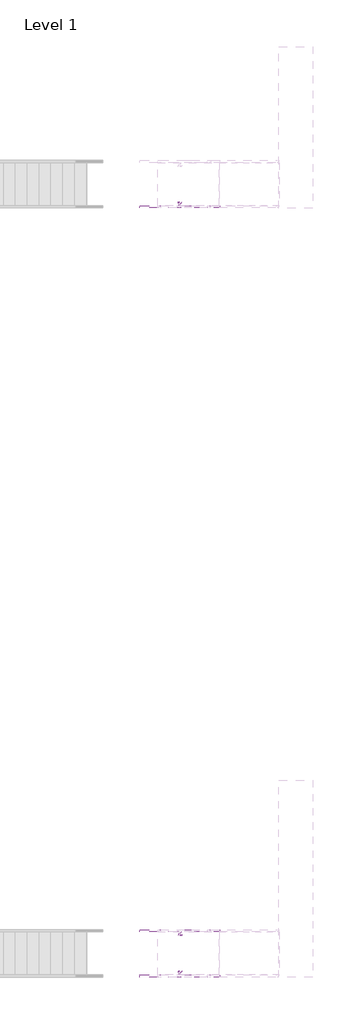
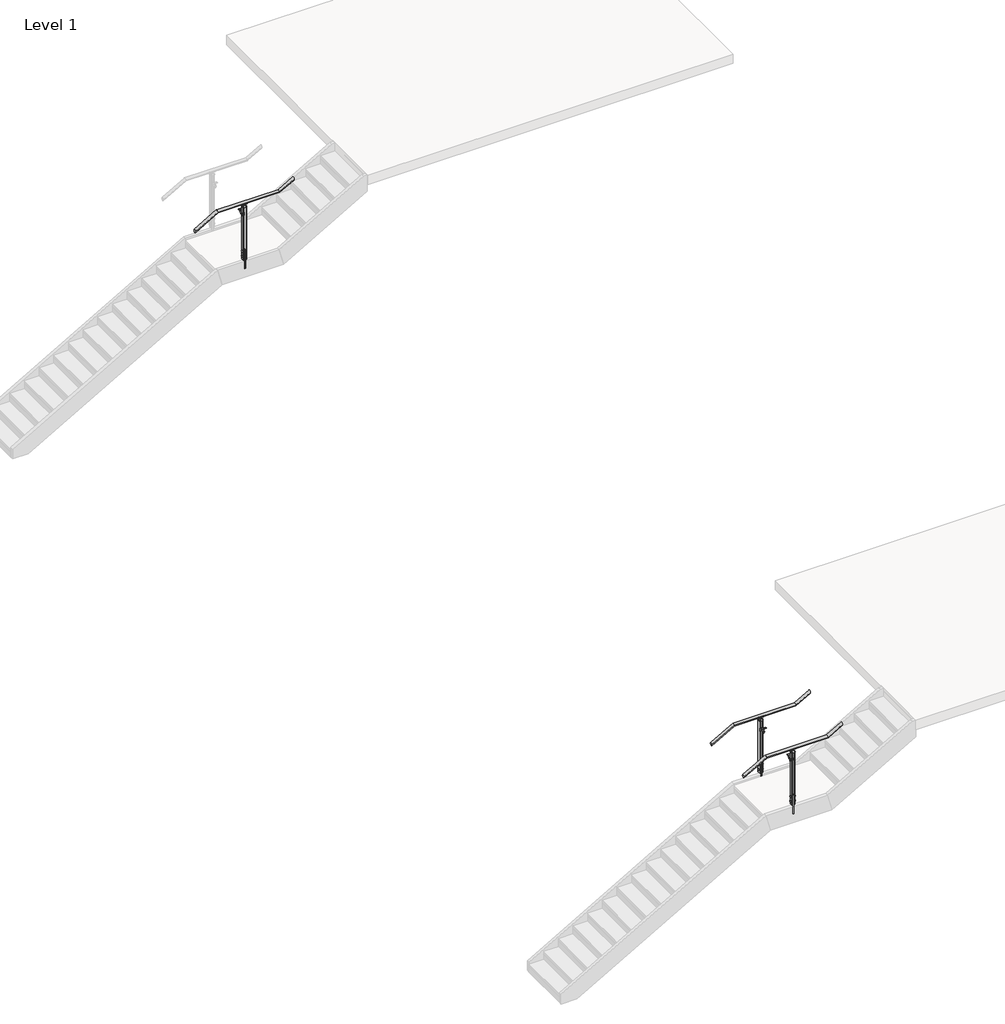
# One storey, part 24 of 36: 3 railings.
"""IFC4 building model written with IfcOpenShell, lengths in millimetres."""

from ifc_helpers import new_model, si_unit, point, frame, frame_2d, origin, place, context, project, spatial, polyline, circle_curve, ellipse_curve, trimmed, segment, composite_curve, outline, extrude, element, save
from ifc_brep_helpers import plane_surface, cylinder_surface, revolved_surface, advanced_brep

model = new_model("IFC4")

# Units and contexts
model_context = context("Model", 3, world=origin())
ifc_project = project(units=[si_unit("LENGTHUNIT", "METRE", prefix="MILLI")], contexts=[model_context])

# Site, building, storey
site = spatial("IfcSite", under=ifc_project)
building = spatial("IfcBuilding", under=site)
storey = spatial("IfcBuildingStorey", under=building, Name="Level 1", Elevation=0.0)

# Railings
placement = place(None, origin())
element("IfcRailing", 1, ObjectType="VIVA-BLADE-Perforated-Weld Mount-Stair-Landing", at=placement, inside=storey, context=model_context, shape_type="SolidModel", body=[
    advanced_brep(
    [(112025.2736551, -2442.7711813, 3047.7740933), (112025.2736551, -2391.9711813, 3047.7740933), (112413.0189918, -2442.7711813, 3269.3428571), (112413.0189918, -2391.9711813, 3269.3428571), (113479.8189918, -2442.7711813, 3269.3428571), (113479.8189918, -2391.9711813, 3269.3428571), (113730.2486551, -2442.7711813, 3412.4455219), (113730.2486551, -2391.9711813, 3412.4455219)],
    [
        (0, 1, ellipse_curve(frame((112025.2736551, -2417.3711813, 3047.7740933), z_axis=(-1.0, 0.0, 0.0), x_axis=(0.0, 0.0, -0.9999999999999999)), 29.2544781, 25.4)),
        (1, 0, ellipse_curve(frame((112025.2736551, -2417.3711813, 3047.7740933), z_axis=(-1.0, 0.0, 0.0), x_axis=(0.0, 0.0, -0.9999999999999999)), 29.2544781, 25.4)),
        (0, 2),
        (2, 3, ellipse_curve(frame((112413.0189918, -2417.3711813, 3269.3428571), z_axis=(-0.9664996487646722, 0.0, -0.2566679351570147), x_axis=(0.25666793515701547, 0.0, -0.9664996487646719)), 26.2804027, 25.4)),
        (3, 1),
        (3, 2, ellipse_curve(frame((112413.0189918, -2417.3711813, 3269.3428571), z_axis=(-0.9664996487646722, 0.0, -0.2566679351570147), x_axis=(0.25666793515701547, 0.0, -0.9664996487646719)), 26.2804027, 25.4)),
        (2, 4),
        (4, 5, ellipse_curve(frame((113479.8189918, -2417.3711813, 3269.3428571), z_axis=(-0.9664996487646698, 0.0, -0.2566679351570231), x_axis=(-0.2566679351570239, 0.0, 0.9664996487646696)), 26.2804027, 25.4)),
        (5, 3),
        (5, 4, ellipse_curve(frame((113479.8189918, -2417.3711813, 3269.3428571), z_axis=(-0.9664996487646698, 0.0, -0.2566679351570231), x_axis=(-0.2566679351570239, 0.0, 0.9664996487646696)), 26.2804027, 25.4)),
        (6, 7, ellipse_curve(frame((113730.2486551, -2417.3711813, 3412.4455219), z_axis=(1.0, 0.0, 0.0), x_axis=(0.0, 0.0, -1.0)), 29.2544781, 25.4)),
        (7, 6, ellipse_curve(frame((113730.2486551, -2417.3711813, 3412.4455219), z_axis=(1.0, 0.0, 0.0), x_axis=(0.0, 0.0, -1.0)), 29.2544781, 25.4)),
        (4, 6),
        (7, 5),
    ],
    [
        plane_surface(frame((112025.2736551, -2417.3711813, 3077.0285714), z_axis=(-1.0, 0.0, 0.0), x_axis=(0.0, 1.0, 0.0))),
        cylinder_surface(frame((112037.8755841, -2417.3711813, 3054.9751956), z_axis=(-0.868243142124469, 0.0, -0.49613893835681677), x_axis=(0.0, 1.0, 0.0)), 25.4),
        cylinder_surface(frame((112406.2736551, -2417.3711813, 3269.3428571), z_axis=(-1.0, 0.0, 0.0), x_axis=(0.0, 1.0, 0.0)), 25.4),
        plane_surface(frame((113730.2486551, -2417.3711813, 3441.7), z_axis=(1.0, 0.0, 0.0), x_axis=(0.0, 1.0, 0.0))),
        cylinder_surface(frame((113485.6755841, -2417.3711813, 3272.6894813), z_axis=(-0.8682431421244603, 0.0, -0.4961389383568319), x_axis=(0.0, 1.0, 0.0)), 25.4),
    ],
    [
        (0, [[1, 2]]),
        (1, [[-1, 3, 4, 5]]),
        (1, [[-2, -5, 6, -3]]),
        (2, [[-4, 7, 8, 9]]),
        (2, [[-6, -9, 10, -7]]),
        (3, [[11, 12]]),
        (4, [[-8, 13, -12, 14]]),
        (4, [[-10, -14, -11, -13]]),
    ],
),
    extrude(outline(composite_curve([segment(trimmed(circle_curve(frame_2d((0.0, 7.0)), 7.0), [point((0.0, 14.0))], [point((0.0, 0.0))], False, "CARTESIAN"), True, "CONTINUOUS"), segment(trimmed(circle_curve(frame_2d((0.0, 7.0)), 7.0), [point((0.0, 0.0))], [point((0.0, 14.0))], False, "CARTESIAN"), True, "CONTINUOUS")], self_intersect=False)), frame((112877.6769052, -2331.6875589, 3013.7229503), z_axis=(0.0012555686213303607, 0.0, 0.999999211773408), x_axis=(0.999999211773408, 0.0, -0.0012555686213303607)), (0.0, 0.0, 1.0), 75.97),
    extrude(outline(composite_curve([segment(trimmed(circle_curve(frame_2d((-2323.4396268, 3111.669086)), 19.05), [point((-2336.9692151, 3098.2581672))], [point((-2309.9100386, 3098.2581672))], True, "CARTESIAN"), True, "CONTINUOUS"), segment(polyline([(-2309.9100386, 3098.2581672), (-2308.883649, 3097.2407802)]), True, "CONTINUOUS"), segment(trimmed(circle_curve(frame_2d((-2309.9396268, 3096.1754583)), 1.5), [point((-2308.883649, 3097.2407802))], [point((-2308.9542254, 3095.0445366))], False, "CARTESIAN"), True, "CONTINUOUS"), segment(trimmed(circle_curve(frame_2d((-2323.4396268, 3111.669086)), 22.05), [point((-2308.9542254, 3095.0445366))], [point((-2337.9250283, 3095.0445366))], False, "CARTESIAN"), True, "CONTINUOUS"), segment(trimmed(circle_curve(frame_2d((-2336.9396268, 3096.1754583)), 1.5), [point((-2337.9250283, 3095.0445366))], [point((-2337.9956047, 3097.2407802))], False, "CARTESIAN"), True, "CONTINUOUS"), segment(polyline([(-2337.9956047, 3097.2407802), (-2336.9692151, 3098.2581672)]), True, "CONTINUOUS")], self_intersect=False)), frame((112841.3255204, 0.0, 0.0), z_axis=(1.0, 0.0, 0.0), x_axis=(0.0, 1.0, 0.0)), (0.0, 0.0, 1.0), 74.5229187),
    extrude(outline(composite_curve([segment(trimmed(circle_curve(frame_2d((3040.5995463, 112877.7368087)), 12.5), [point((3040.5995463, 112865.2368087))], [point((3040.5995463, 112890.2368087))], False, "CARTESIAN"), True, "CONTINUOUS"), segment(trimmed(circle_curve(frame_2d((3040.5995463, 112877.7368087)), 12.5), [point((3040.5995463, 112890.2368087))], [point((3040.5995463, 112865.2368087))], False, "CARTESIAN"), True, "CONTINUOUS")], self_intersect=False)), frame((0.0, -2391.9713846, 0.0), z_axis=(0.0, 1.0, 0.0), x_axis=(0.0, 0.0, 1.0)), (0.0, 0.0, 1.0), 82.061346),
    extrude(outline(polyline([(112904.8359907, -2385.6213846), (112904.8359907, -2391.9713846), (112850.7085907, -2391.9713846), (112850.7085907, -2385.6213846), (112904.8359907, -2385.6213846)])), frame((0.0, 0.0, 3013.6558249), z_axis=(0.0, 0.0, 1.0), x_axis=(1.0, 0.0, 0.0)), (0.0, 0.0, 1.0), 54.1734375),
    advanced_brep(
    [(112922.9985551, -2404.6110577, 3247.3396226), (112922.9985551, -2429.4831222, 3247.1963856), (112922.9985551, -2432.2920525, 3242.3696317), (112922.9985551, -2400.7751603, 3242.9503901), (112832.5237551, -2404.6110577, 3247.3396226), (112832.5237551, -2400.7751603, 3242.9503901), (112832.5237551, -2432.4058459, 3242.4322535), (112832.5237551, -2429.5700943, 3247.2447018)],
    [
        (0, 1, circle_curve(frame((112922.9985551, -2417.1748606, 3269.4544469), z_axis=(-1.0, 0.0, 0.0), x_axis=(0.0, 1.0, 0.0)), 25.4345159)),
        (1, 2, circle_curve(frame((112922.9985551, -2430.8147475, 3244.742217), z_axis=(1.0, 0.0, 0.0), x_axis=(0.0, 1.0, 0.0)), 2.7949225)),
        (2, 3, circle_curve(frame((112922.9985551, -2417.0413975, 3270.2170736), z_axis=(1.0, 0.0, 0.0), x_axis=(0.0, 1.0, 0.0)), 31.75)),
        (3, 0, circle_curve(frame((112922.9985551, -2403.0635, 3244.8213092), z_axis=(1.0, 0.0, 0.0), x_axis=(0.0, 1.0, 0.0)), 2.9558141)),
        (4, 5, circle_curve(frame((112832.5237551, -2403.0635, 3244.8213092), z_axis=(-1.0, 0.0, 0.0), x_axis=(0.0, 1.0, 0.0)), 2.9558141)),
        (5, 6, circle_curve(frame((112832.5237551, -2417.0413975, 3270.2170736), z_axis=(-1.0, 0.0, 0.0), x_axis=(0.0, 1.0, 0.0)), 31.75)),
        (6, 7, circle_curve(frame((112832.5237551, -2430.8147475, 3244.742217), z_axis=(-1.0, 0.0, 0.0), x_axis=(0.0, 1.0, 0.0)), 2.7949225)),
        (7, 4, circle_curve(frame((112832.5237551, -2417.1748606, 3269.4544469), z_axis=(1.0, 0.0, 0.0), x_axis=(0.0, 1.0, 0.0)), 25.4345159)),
        (0, 4),
        (7, 1),
        (6, 2),
        (5, 3),
    ],
    [
        plane_surface(frame((112922.9985551, -2391.7403447, 3269.4544469), z_axis=(1.0, 0.0, 0.0), x_axis=(0.0, 0.0, -1.0))),
        plane_surface(frame((112832.5237551, -2391.7403447, 3269.4544469), z_axis=(-1.0, 0.0, 0.0), x_axis=(0.0, 0.0, 1.0))),
        revolved_surface(polyline([(112832.5237551, -2391.7403447, 3269.4544469), (112922.9985551, -2391.7403447, 3269.4544469)]), (112832.5237551, -2417.1748606, 3269.4544469), (-1.0, 0.0, 0.0)),
        cylinder_surface(frame((112832.5237551, -2430.8147475, 3244.742217), z_axis=(1.0, 0.0, 0.0), x_axis=(0.0, 1.0, 0.0)), 2.7949225),
        cylinder_surface(frame((112832.5237551, -2417.0413975, 3270.2170736), z_axis=(1.0, 0.0, 0.0), x_axis=(0.0, 1.0, 0.0)), 31.75),
        cylinder_surface(frame((112832.5237551, -2403.0635, 3244.8213092), z_axis=(1.0, 0.0, 0.0), x_axis=(0.0, 1.0, 0.0)), 2.9558141),
    ],
    [
        (0, [[1, 2, 3, 4]]),
        (1, [[5, 6, 7, 8]]),
        (2, [[-1, 9, -8, 10]]),
        (3, [[-2, -10, -7, 11]]),
        (4, [[-3, -11, -6, 12]]),
        (5, [[-4, -12, -5, -9]]),
    ],
),
    advanced_brep(
    [(112890.4611551, -2414.8311813, 3229.6553571), (112865.0611551, -2414.8311813, 3229.6553571), (112850.6932402, -2414.8311813, 3244.023272), (112904.8290699, -2414.8311813, 3244.023272), (112890.4611551, -2419.9111813, 3229.6553571), (112904.8290699, -2419.9111813, 3244.023272), (112850.6932402, -2419.9111813, 3244.023272), (112865.0611551, -2419.9111813, 3229.6553571)],
    [
        (0, 1),
        (1, 2, circle_curve(frame((112850.6932402, -2414.8311813, 3229.6553571), z_axis=(0.0, -1.0, 0.0), x_axis=(-1.0, 0.0, 0.0)), 14.3679149)),
        (2, 3),
        (3, 0, circle_curve(frame((112904.8290699, -2414.8311813, 3229.6553571), z_axis=(0.0, -1.0, 0.0), x_axis=(-1.0, 0.0, 0.0)), 14.3679149)),
        (4, 5, circle_curve(frame((112904.8290699, -2419.9111813, 3229.6553571), z_axis=(0.0, 1.0, 0.0), x_axis=(-1.0, 0.0, 0.0)), 14.3679149)),
        (5, 6),
        (6, 7, circle_curve(frame((112850.6932402, -2419.9111813, 3229.6553571), z_axis=(0.0, 1.0, 0.0), x_axis=(-1.0, 0.0, 0.0)), 14.3679149)),
        (7, 4),
        (0, 4),
        (7, 1),
        (6, 2),
        (5, 3),
    ],
    [
        plane_surface(frame((112865.0611551, -2414.8311813, 3229.6553571), z_axis=(0.0, 1.0, 0.0), x_axis=(-1.0, 0.0, 0.0))),
        plane_surface(frame((112865.0611551, -2419.9111813, 3229.6553571), z_axis=(0.0, -1.0, 0.0), x_axis=(1.0, 0.0, 0.0))),
        plane_surface(frame((112890.4611551, -2414.8311813, 3229.6553571), z_axis=(0.0, 0.0, -1.0), x_axis=(0.0, -1.0, 0.0))),
        revolved_surface(polyline([(112836.3253253, -2419.9111813, 3229.6553571), (112836.3253253, -2414.8311813, 3229.6553571)]), (112850.6932402, -2419.9111813, 3229.6553571), (0.0, -1.0, 0.0)),
        plane_surface(frame((112850.6932402, -2414.8311813, 3244.023272), z_axis=(0.0, 0.0, 1.0), x_axis=(0.0, -1.0, 0.0))),
        revolved_surface(polyline([(112890.46115500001, -2419.9111813, 3229.6553571), (112890.46115500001, -2414.8311813, 3229.6553571)]), (112904.8290699, -2419.9111813, 3229.6553571), (0.0, -1.0, 0.0)),
    ],
    [
        (0, [[1, 2, 3, 4]]),
        (1, [[5, 6, 7, 8]]),
        (2, [[-1, 9, -8, 10]]),
        (3, [[-2, -10, -7, 11]]),
        (4, [[-3, -11, -6, 12]]),
        (5, [[-4, -12, -5, -9]]),
    ],
),
    extrude(outline(polyline([(112850.6863194, -2391.9713846), (112858.7111551, -2391.9713846), (112858.7111551, -2442.7737093), (112850.6863194, -2442.7737093), (112850.6863194, -2391.9713846)])), frame((0.0, 0.0, 2237.6440557), z_axis=(0.0, 0.0, 1.0), x_axis=(1.0, 0.0, 0.0)), (0.0, 0.0, 1.0), 974.5488015),
    extrude(outline(polyline([(112885.6901563, -2391.9717835), (112885.6901563, -2442.7717758), (112869.7541659, -2442.7717758), (112869.7541659, -2391.9717835), (112885.6901563, -2391.9717835)])), frame((0.0, 0.0, 2075.5428571), z_axis=(0.0, 0.0, 1.0), x_axis=(1.0, 0.0, 0.0)), (0.0, 0.0, 1.0), 342.9),
    extrude(outline(composite_curve([segment(trimmed(circle_curve(frame_2d((-2430.0736582, 3201.2845501)), 8.89), [point((-2438.9636582, 3201.2845501))], [point((-2421.1836582, 3201.2845501))], False, "CARTESIAN"), True, "CONTINUOUS"), segment(trimmed(circle_curve(frame_2d((-2430.0736582, 3201.2845501)), 8.89), [point((-2421.1836582, 3201.2845501))], [point((-2438.9636582, 3201.2845501))], False, "CARTESIAN"), True, "CONTINUOUS")], self_intersect=False)), frame((112846.0111551, 0.0, 0.0), z_axis=(1.0, 0.0, 0.0), x_axis=(0.0, 1.0, 0.0)), (0.0, 0.0, 1.0), 63.4880631),
    extrude(outline(composite_curve([segment(trimmed(circle_curve(frame_2d((-2404.6737603, 3201.2845501)), 8.89), [point((-2413.5637603, 3201.2845501))], [point((-2395.7837603, 3201.2845501))], False, "CARTESIAN"), True, "CONTINUOUS"), segment(trimmed(circle_curve(frame_2d((-2404.6737603, 3201.2845501)), 8.89), [point((-2395.7837603, 3201.2845501))], [point((-2413.5637603, 3201.2845501))], False, "CARTESIAN"), True, "CONTINUOUS")], self_intersect=False)), frame((112846.0111551, 0.0, 0.0), z_axis=(1.0, 0.0, 0.0), x_axis=(0.0, 1.0, 0.0)), (0.0, 0.0, 1.0), 63.4880631),
    extrude(outline(polyline([(3189.9551571, 112858.7111551), (3189.9551571, 112896.8111551), (3223.3053571, 112896.8111551), (3229.6553571, 112890.4611551), (3229.6553571, 112865.0611551), (3223.3053571, 112858.7111551), (3189.9551571, 112858.7111551)])), frame((0.0, -2442.7737093, 0.0), z_axis=(0.0, 1.0, 0.0), x_axis=(0.0, 0.0, 1.0)), (0.0, 0.0, 1.0), 50.8025279),
    extrude(outline(composite_curve([segment(trimmed(circle_curve(frame_2d((-2417.3709756, 2385.1476493)), 19.05), [point((-2436.4209756, 2385.1476493))], [point((-2398.3209756, 2385.1476493))], False, "CARTESIAN"), True, "CONTINUOUS"), segment(trimmed(circle_curve(frame_2d((-2417.3709756, 2385.1476493)), 19.05), [point((-2398.3209756, 2385.1476493))], [point((-2436.4209756, 2385.1476493))], False, "CARTESIAN"), True, "CONTINUOUS")], self_intersect=False)), frame((112841.3121551, 0.0, 0.0), z_axis=(1.0, 0.0, 0.0), x_axis=(0.0, 1.0, 0.0)), (0.0, 0.0, 1.0), 72.8981531),
    extrude(outline(composite_curve([segment(trimmed(circle_curve(frame_2d((-2417.3709756, 2296.2476493)), 19.05), [point((-2436.4209756, 2296.2476493))], [point((-2398.3209756, 2296.2476493))], False, "CARTESIAN"), True, "CONTINUOUS"), segment(trimmed(circle_curve(frame_2d((-2417.3709756, 2296.2476493)), 19.05), [point((-2398.3209756, 2296.2476493))], [point((-2436.4209756, 2296.2476493))], False, "CARTESIAN"), True, "CONTINUOUS")], self_intersect=False)), frame((112841.3121551, 0.0, 0.0), z_axis=(1.0, 0.0, 0.0), x_axis=(0.0, 1.0, 0.0)), (0.0, 0.0, 1.0), 72.8981531),
    extrude(outline(polyline([(112896.811117, -2391.9713846), (112904.812117, -2391.9713846), (112904.812117, -2442.7737093), (112896.811117, -2442.7737093), (112896.811117, -2391.9713846)])), frame((0.0, 0.0, 2237.6440557), z_axis=(0.0, 0.0, 1.0), x_axis=(1.0, 0.0, 0.0)), (0.0, 0.0, 1.0), 974.5488015),
])
element("IfcRailing", 2, ObjectType="VIVA-BLADE-Wire Mesh-Weld Mount-Stair-Landing", at=placement, inside=storey, context=model_context, shape_type="SolidModel", body=[
    advanced_brep(
    [(112025.2736551, -18910.6846057, 3047.7740933), (112025.2736551, -18859.8846057, 3047.7740933), (112413.0189918, -18910.6846057, 3269.3428571), (112413.0189918, -18859.8846057, 3269.3428571), (113479.8189918, -18910.6846057, 3269.3428571), (113479.8189918, -18859.8846057, 3269.3428571), (113730.2486551, -18910.6846057, 3412.4455219), (113730.2486551, -18859.8846057, 3412.4455219)],
    [
        (0, 1, ellipse_curve(frame((112025.2736551, -18885.2846057, 3047.7740933), z_axis=(-1.0, 0.0, 0.0), x_axis=(0.0, 0.0, -0.9999999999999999)), 29.2544781, 25.4)),
        (1, 0, ellipse_curve(frame((112025.2736551, -18885.2846057, 3047.7740933), z_axis=(-1.0, 0.0, 0.0), x_axis=(0.0, 0.0, -0.9999999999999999)), 29.2544781, 25.4)),
        (0, 2),
        (2, 3, ellipse_curve(frame((112413.0189918, -18885.2846057, 3269.3428571), z_axis=(-0.9664996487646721, 0.0, -0.2566679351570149), x_axis=(0.25666793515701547, 0.0, -0.9664996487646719)), 26.2804027, 25.4)),
        (3, 1),
        (3, 2, ellipse_curve(frame((112413.0189918, -18885.2846057, 3269.3428571), z_axis=(-0.9664996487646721, 0.0, -0.2566679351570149), x_axis=(0.25666793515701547, 0.0, -0.9664996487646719)), 26.2804027, 25.4)),
        (2, 4),
        (4, 5, ellipse_curve(frame((113479.8189918, -18885.2846057, 3269.3428571), z_axis=(-0.9664996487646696, 0.0, -0.25666793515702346), x_axis=(-0.2566679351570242, 0.0, 0.9664996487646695)), 26.2804027, 25.4)),
        (5, 3),
        (5, 4, ellipse_curve(frame((113479.8189918, -18885.2846057, 3269.3428571), z_axis=(-0.9664996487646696, 0.0, -0.25666793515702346), x_axis=(-0.2566679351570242, 0.0, 0.9664996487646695)), 26.2804027, 25.4)),
        (6, 7, ellipse_curve(frame((113730.2486551, -18885.2846057, 3412.4455219), z_axis=(1.0, 0.0, 0.0), x_axis=(0.0, 0.0, -1.0)), 29.2544781, 25.4)),
        (7, 6, ellipse_curve(frame((113730.2486551, -18885.2846057, 3412.4455219), z_axis=(1.0, 0.0, 0.0), x_axis=(0.0, 0.0, -1.0)), 29.2544781, 25.4)),
        (4, 6),
        (7, 5),
    ],
    [
        plane_surface(frame((112025.2736551, -18885.2846057, 3077.0285714), z_axis=(-1.0, 0.0, 0.0), x_axis=(0.0, 1.0, 0.0))),
        cylinder_surface(frame((112037.8755841, -18885.2846057, 3054.9751956), z_axis=(-0.8682431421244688, 0.0, -0.496138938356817), x_axis=(0.0, 1.0, 0.0)), 25.4),
        cylinder_surface(frame((112406.2736551, -18885.2846057, 3269.3428571), z_axis=(-1.0, 0.0, 0.0), x_axis=(0.0, 1.0, 0.0)), 25.4),
        plane_surface(frame((113730.2486551, -18885.2846057, 3441.7), z_axis=(1.0, 0.0, 0.0), x_axis=(0.0, 1.0, 0.0))),
        cylinder_surface(frame((113485.6755841, -18885.2846057, 3272.6894813), z_axis=(-0.8682431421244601, 0.0, -0.49613893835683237), x_axis=(0.0, 1.0, 0.0)), 25.4),
    ],
    [
        (0, [[1, 2]]),
        (1, [[-1, 3, 4, 5]]),
        (1, [[-2, -5, 6, -3]]),
        (2, [[-4, 7, 8, 9]]),
        (2, [[-6, -9, 10, -7]]),
        (3, [[11, 12]]),
        (4, [[-8, 13, -12, 14]]),
        (4, [[-10, -14, -11, -13]]),
    ],
),
    extrude(outline(composite_curve([segment(trimmed(circle_curve(frame_2d((0.0, 7.0)), 7.0), [point((0.0, 14.0))], [point((0.0, 0.0))], False, "CARTESIAN"), True, "CONTINUOUS"), segment(trimmed(circle_curve(frame_2d((0.0, 7.0)), 7.0), [point((0.0, 0.0))], [point((0.0, 14.0))], False, "CARTESIAN"), True, "CONTINUOUS")], self_intersect=False)), frame((112877.6769052, -18799.6009833, 3013.7229503), z_axis=(0.0012555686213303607, 0.0, 0.999999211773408), x_axis=(0.999999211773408, 0.0, -0.0012555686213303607)), (0.0, 0.0, 1.0), 75.97),
    extrude(outline(composite_curve([segment(trimmed(circle_curve(frame_2d((-18791.3530512, 3111.669086)), 19.05), [point((-18804.8826395, 3098.2581672))], [point((-18777.823463, 3098.2581672))], True, "CARTESIAN"), True, "CONTINUOUS"), segment(polyline([(-18777.823463, 3098.2581672), (-18776.7970734, 3097.2407802)]), True, "CONTINUOUS"), segment(trimmed(circle_curve(frame_2d((-18777.8530512, 3096.1754583)), 1.5), [point((-18776.7970734, 3097.2407802))], [point((-18776.8676498, 3095.0445366))], False, "CARTESIAN"), True, "CONTINUOUS"), segment(trimmed(circle_curve(frame_2d((-18791.3530512, 3111.669086)), 22.05), [point((-18776.8676498, 3095.0445366))], [point((-18805.8384527, 3095.0445366))], False, "CARTESIAN"), True, "CONTINUOUS"), segment(trimmed(circle_curve(frame_2d((-18804.8530512, 3096.1754583)), 1.5), [point((-18805.8384527, 3095.0445366))], [point((-18805.9090291, 3097.2407802))], False, "CARTESIAN"), True, "CONTINUOUS"), segment(polyline([(-18805.9090291, 3097.2407802), (-18804.8826395, 3098.2581672)]), True, "CONTINUOUS")], self_intersect=False)), frame((112841.3255204, 0.0, 0.0), z_axis=(1.0, 0.0, 0.0), x_axis=(0.0, 1.0, 0.0)), (0.0, 0.0, 1.0), 74.5229187),
    extrude(outline(composite_curve([segment(trimmed(circle_curve(frame_2d((3040.5995463, 112877.7368087)), 12.5), [point((3040.5995463, 112865.2368087))], [point((3040.5995463, 112890.2368087))], False, "CARTESIAN"), True, "CONTINUOUS"), segment(trimmed(circle_curve(frame_2d((3040.5995463, 112877.7368087)), 12.5), [point((3040.5995463, 112890.2368087))], [point((3040.5995463, 112865.2368087))], False, "CARTESIAN"), True, "CONTINUOUS")], self_intersect=False)), frame((0.0, -18859.884809, 0.0), z_axis=(0.0, 1.0, 0.0), x_axis=(0.0, 0.0, 1.0)), (0.0, 0.0, 1.0), 82.061346),
    extrude(outline(polyline([(112904.8359907, -18853.534809), (112904.8359907, -18859.884809), (112850.7085907, -18859.884809), (112850.7085907, -18853.534809), (112904.8359907, -18853.534809)])), frame((0.0, 0.0, 3013.6558249), z_axis=(0.0, 0.0, 1.0), x_axis=(1.0, 0.0, 0.0)), (0.0, 0.0, 1.0), 54.1734375),
    advanced_brep(
    [(112922.9985551, -18872.5244821, 3247.3396226), (112922.9985551, -18897.3965466, 3247.1963856), (112922.9985551, -18900.2054769, 3242.3696317), (112922.9985551, -18868.6885847, 3242.9503901), (112832.5237551, -18872.5244821, 3247.3396226), (112832.5237551, -18868.6885847, 3242.9503901), (112832.5237551, -18900.3192703, 3242.4322535), (112832.5237551, -18897.4835187, 3247.2447018)],
    [
        (0, 1, circle_curve(frame((112922.9985551, -18885.088285, 3269.4544469), z_axis=(-1.0, 0.0, 0.0), x_axis=(0.0, 1.0, 0.0)), 25.4345159)),
        (1, 2, circle_curve(frame((112922.9985551, -18898.7281719, 3244.742217), z_axis=(1.0, 0.0, 0.0), x_axis=(0.0, 1.0, 0.0)), 2.7949225)),
        (2, 3, circle_curve(frame((112922.9985551, -18884.9548219, 3270.2170736), z_axis=(1.0, 0.0, 0.0), x_axis=(0.0, 1.0, 0.0)), 31.75)),
        (3, 0, circle_curve(frame((112922.9985551, -18870.9769244, 3244.8213092), z_axis=(1.0, 0.0, 0.0), x_axis=(0.0, 1.0, 0.0)), 2.9558141)),
        (4, 5, circle_curve(frame((112832.5237551, -18870.9769244, 3244.8213092), z_axis=(-1.0, 0.0, 0.0), x_axis=(0.0, 1.0, 0.0)), 2.9558141)),
        (5, 6, circle_curve(frame((112832.5237551, -18884.9548219, 3270.2170736), z_axis=(-1.0, 0.0, 0.0), x_axis=(0.0, 1.0, 0.0)), 31.75)),
        (6, 7, circle_curve(frame((112832.5237551, -18898.7281719, 3244.742217), z_axis=(-1.0, 0.0, 0.0), x_axis=(0.0, 1.0, 0.0)), 2.7949225)),
        (7, 4, circle_curve(frame((112832.5237551, -18885.088285, 3269.4544469), z_axis=(1.0, 0.0, 0.0), x_axis=(0.0, 1.0, 0.0)), 25.4345159)),
        (0, 4),
        (7, 1),
        (6, 2),
        (5, 3),
    ],
    [
        plane_surface(frame((112922.9985551, -18859.6537691, 3269.4544469), z_axis=(1.0, 0.0, 0.0), x_axis=(0.0, 0.0, -1.0))),
        plane_surface(frame((112832.5237551, -18859.6537691, 3269.4544469), z_axis=(-1.0, 0.0, 0.0), x_axis=(0.0, 0.0, 1.0))),
        revolved_surface(polyline([(112832.5237551, -18859.6537691, 3269.4544469), (112922.9985551, -18859.6537691, 3269.4544469)]), (112832.5237551, -18885.088285, 3269.4544469), (-1.0, 0.0, 0.0)),
        cylinder_surface(frame((112832.5237551, -18898.7281719, 3244.742217), z_axis=(1.0, 0.0, 0.0), x_axis=(0.0, 1.0, 0.0)), 2.7949225),
        cylinder_surface(frame((112832.5237551, -18884.9548219, 3270.2170736), z_axis=(1.0, 0.0, 0.0), x_axis=(0.0, 1.0, 0.0)), 31.75),
        cylinder_surface(frame((112832.5237551, -18870.9769244, 3244.8213092), z_axis=(1.0, 0.0, 0.0), x_axis=(0.0, 1.0, 0.0)), 2.9558141),
    ],
    [
        (0, [[1, 2, 3, 4]]),
        (1, [[5, 6, 7, 8]]),
        (2, [[-1, 9, -8, 10]]),
        (3, [[-2, -10, -7, 11]]),
        (4, [[-3, -11, -6, 12]]),
        (5, [[-4, -12, -5, -9]]),
    ],
),
    advanced_brep(
    [(112890.4611551, -18882.7446057, 3229.6553571), (112865.0611551, -18882.7446057, 3229.6553571), (112850.6932402, -18882.7446057, 3244.023272), (112904.8290699, -18882.7446057, 3244.023272), (112890.4611551, -18887.8246057, 3229.6553571), (112904.8290699, -18887.8246057, 3244.023272), (112850.6932402, -18887.8246057, 3244.023272), (112865.0611551, -18887.8246057, 3229.6553571)],
    [
        (0, 1),
        (1, 2, circle_curve(frame((112850.6932402, -18882.7446057, 3229.6553571), z_axis=(0.0, -1.0, 0.0), x_axis=(-1.0, 0.0, 0.0)), 14.3679149)),
        (2, 3),
        (3, 0, circle_curve(frame((112904.8290699, -18882.7446057, 3229.6553571), z_axis=(0.0, -1.0, 0.0), x_axis=(-1.0, 0.0, 0.0)), 14.3679149)),
        (4, 5, circle_curve(frame((112904.8290699, -18887.8246057, 3229.6553571), z_axis=(0.0, 1.0, 0.0), x_axis=(-1.0, 0.0, 0.0)), 14.3679149)),
        (5, 6),
        (6, 7, circle_curve(frame((112850.6932402, -18887.8246057, 3229.6553571), z_axis=(0.0, 1.0, 0.0), x_axis=(-1.0, 0.0, 0.0)), 14.3679149)),
        (7, 4),
        (0, 4),
        (7, 1),
        (6, 2),
        (5, 3),
    ],
    [
        plane_surface(frame((112865.0611551, -18882.7446057, 3229.6553571), z_axis=(0.0, 1.0, 0.0), x_axis=(-1.0, 0.0, 0.0))),
        plane_surface(frame((112865.0611551, -18887.8246057, 3229.6553571), z_axis=(0.0, -1.0, 0.0), x_axis=(1.0, 0.0, 0.0))),
        plane_surface(frame((112890.4611551, -18882.7446057, 3229.6553571), z_axis=(0.0, 0.0, -1.0), x_axis=(0.0, -1.0, 0.0))),
        revolved_surface(polyline([(112836.3253253, -18887.8246057, 3229.6553571), (112836.3253253, -18882.7446057, 3229.6553571)]), (112850.6932402, -18887.8246057, 3229.6553571), (0.0, -1.0, 0.0)),
        plane_surface(frame((112850.6932402, -18882.7446057, 3244.023272), z_axis=(0.0, 0.0, 1.0), x_axis=(0.0, -1.0, 0.0))),
        revolved_surface(polyline([(112890.46115500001, -18887.8246057, 3229.6553571), (112890.46115500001, -18882.7446057, 3229.6553571)]), (112904.8290699, -18887.8246057, 3229.6553571), (0.0, -1.0, 0.0)),
    ],
    [
        (0, [[1, 2, 3, 4]]),
        (1, [[5, 6, 7, 8]]),
        (2, [[-1, 9, -8, 10]]),
        (3, [[-2, -10, -7, 11]]),
        (4, [[-3, -11, -6, 12]]),
        (5, [[-4, -12, -5, -9]]),
    ],
),
    extrude(outline(polyline([(112850.6863194, -18859.884809), (112858.7111551, -18859.884809), (112858.7111551, -18910.6871337), (112850.6863194, -18910.6871337), (112850.6863194, -18859.884809)])), frame((0.0, 0.0, 2237.6440557), z_axis=(0.0, 0.0, 1.0), x_axis=(1.0, 0.0, 0.0)), (0.0, 0.0, 1.0), 974.5488015),
    extrude(outline(polyline([(112885.6901563, -18859.8852079), (112885.6901563, -18910.6852002), (112869.7541659, -18910.6852002), (112869.7541659, -18859.8852079), (112885.6901563, -18859.8852079)])), frame((0.0, 0.0, 2075.5428571), z_axis=(0.0, 0.0, 1.0), x_axis=(1.0, 0.0, 0.0)), (0.0, 0.0, 1.0), 342.9),
    extrude(outline(composite_curve([segment(trimmed(circle_curve(frame_2d((-18897.9870826, 3201.2845501)), 8.89), [point((-18906.8770826, 3201.2845501))], [point((-18889.0970826, 3201.2845501))], False, "CARTESIAN"), True, "CONTINUOUS"), segment(trimmed(circle_curve(frame_2d((-18897.9870826, 3201.2845501)), 8.89), [point((-18889.0970826, 3201.2845501))], [point((-18906.8770826, 3201.2845501))], False, "CARTESIAN"), True, "CONTINUOUS")], self_intersect=False)), frame((112846.0111551, 0.0, 0.0), z_axis=(1.0, 0.0, 0.0), x_axis=(0.0, 1.0, 0.0)), (0.0, 0.0, 1.0), 63.4880631),
    extrude(outline(composite_curve([segment(trimmed(circle_curve(frame_2d((-18872.5871847, 3201.2845501)), 8.89), [point((-18881.4771847, 3201.2845501))], [point((-18863.6971847, 3201.2845501))], False, "CARTESIAN"), True, "CONTINUOUS"), segment(trimmed(circle_curve(frame_2d((-18872.5871847, 3201.2845501)), 8.89), [point((-18863.6971847, 3201.2845501))], [point((-18881.4771847, 3201.2845501))], False, "CARTESIAN"), True, "CONTINUOUS")], self_intersect=False)), frame((112846.0111551, 0.0, 0.0), z_axis=(1.0, 0.0, 0.0), x_axis=(0.0, 1.0, 0.0)), (0.0, 0.0, 1.0), 63.4880631),
    extrude(outline(polyline([(3189.9551571, 112858.7111551), (3189.9551571, 112896.8111551), (3223.3053571, 112896.8111551), (3229.6553571, 112890.4611551), (3229.6553571, 112865.0611551), (3223.3053571, 112858.7111551), (3189.9551571, 112858.7111551)])), frame((0.0, -18910.6871337, 0.0), z_axis=(0.0, 1.0, 0.0), x_axis=(0.0, 0.0, 1.0)), (0.0, 0.0, 1.0), 50.8025279),
    extrude(outline(composite_curve([segment(trimmed(circle_curve(frame_2d((-18885.2844, 2385.1476493)), 19.05), [point((-18904.3344, 2385.1476493))], [point((-18866.2344, 2385.1476493))], False, "CARTESIAN"), True, "CONTINUOUS"), segment(trimmed(circle_curve(frame_2d((-18885.2844, 2385.1476493)), 19.05), [point((-18866.2344, 2385.1476493))], [point((-18904.3344, 2385.1476493))], False, "CARTESIAN"), True, "CONTINUOUS")], self_intersect=False)), frame((112841.3121551, 0.0, 0.0), z_axis=(1.0, 0.0, 0.0), x_axis=(0.0, 1.0, 0.0)), (0.0, 0.0, 1.0), 72.8981531),
    extrude(outline(composite_curve([segment(trimmed(circle_curve(frame_2d((-18885.2844, 2296.2476493)), 19.05), [point((-18904.3344, 2296.2476493))], [point((-18866.2344, 2296.2476493))], False, "CARTESIAN"), True, "CONTINUOUS"), segment(trimmed(circle_curve(frame_2d((-18885.2844, 2296.2476493)), 19.05), [point((-18866.2344, 2296.2476493))], [point((-18904.3344, 2296.2476493))], False, "CARTESIAN"), True, "CONTINUOUS")], self_intersect=False)), frame((112841.3121551, 0.0, 0.0), z_axis=(1.0, 0.0, 0.0), x_axis=(0.0, 1.0, 0.0)), (0.0, 0.0, 1.0), 72.8981531),
    extrude(outline(polyline([(112896.811117, -18859.884809), (112904.812117, -18859.884809), (112904.812117, -18910.6871337), (112896.811117, -18910.6871337), (112896.811117, -18859.884809)])), frame((0.0, 0.0, 2237.6440557), z_axis=(0.0, 0.0, 1.0), x_axis=(1.0, 0.0, 0.0)), (0.0, 0.0, 1.0), 974.5488015),
])
element("IfcRailing", 3, ObjectType="VIVA-BLADE-Wire Mesh-Weld Mount-Stair-Landing", at=placement, inside=storey, context=model_context, shape_type="SolidModel", body=[
    advanced_brep(
    [(112025.2736551, -17945.4846057, 3047.7740933), (112025.2736551, -17894.6846057, 3047.7740933), (112413.0189918, -17945.4846057, 3269.3428571), (112413.0189918, -17894.6846057, 3269.3428571), (113479.8189918, -17945.4846057, 3269.3428571), (113479.8189918, -17894.6846057, 3269.3428571), (113730.2486551, -17945.4846057, 3412.4455219), (113730.2486551, -17894.6846057, 3412.4455219)],
    [
        (0, 1, ellipse_curve(frame((112025.2736551, -17920.0846057, 3047.7740933), z_axis=(-1.0, 0.0, 0.0), x_axis=(0.0, 0.0, -0.9999999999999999)), 29.2544781, 25.4)),
        (1, 0, ellipse_curve(frame((112025.2736551, -17920.0846057, 3047.7740933), z_axis=(-1.0, 0.0, 0.0), x_axis=(0.0, 0.0, -0.9999999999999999)), 29.2544781, 25.4)),
        (0, 2),
        (2, 3, ellipse_curve(frame((112413.0189918, -17920.0846057, 3269.3428571), z_axis=(-0.9664996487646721, 0.0, -0.2566679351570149), x_axis=(0.25666793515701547, 0.0, -0.9664996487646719)), 26.2804027, 25.4)),
        (3, 1),
        (3, 2, ellipse_curve(frame((112413.0189918, -17920.0846057, 3269.3428571), z_axis=(-0.9664996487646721, 0.0, -0.2566679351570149), x_axis=(0.25666793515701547, 0.0, -0.9664996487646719)), 26.2804027, 25.4)),
        (2, 4),
        (4, 5, ellipse_curve(frame((113479.8189918, -17920.0846057, 3269.3428571), z_axis=(-0.9664996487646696, 0.0, -0.25666793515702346), x_axis=(-0.2566679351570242, 0.0, 0.9664996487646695)), 26.2804027, 25.4)),
        (5, 3),
        (5, 4, ellipse_curve(frame((113479.8189918, -17920.0846057, 3269.3428571), z_axis=(-0.9664996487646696, 0.0, -0.25666793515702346), x_axis=(-0.2566679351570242, 0.0, 0.9664996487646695)), 26.2804027, 25.4)),
        (6, 7, ellipse_curve(frame((113730.2486551, -17920.0846057, 3412.4455219), z_axis=(1.0, 0.0, 0.0), x_axis=(0.0, 0.0, -1.0)), 29.2544781, 25.4)),
        (7, 6, ellipse_curve(frame((113730.2486551, -17920.0846057, 3412.4455219), z_axis=(1.0, 0.0, 0.0), x_axis=(0.0, 0.0, -1.0)), 29.2544781, 25.4)),
        (4, 6),
        (7, 5),
    ],
    [
        plane_surface(frame((112025.2736551, -17920.0846057, 3077.0285714), z_axis=(-1.0, 0.0, 0.0), x_axis=(0.0, 1.0, 0.0))),
        cylinder_surface(frame((112037.8755841, -17920.0846057, 3054.9751956), z_axis=(-0.8682431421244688, 0.0, -0.496138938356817), x_axis=(0.0, 1.0, 0.0)), 25.4),
        cylinder_surface(frame((112406.2736551, -17920.0846057, 3269.3428571), z_axis=(-1.0, 0.0, 0.0), x_axis=(0.0, 1.0, 0.0)), 25.4),
        plane_surface(frame((113730.2486551, -17920.0846057, 3441.7), z_axis=(1.0, 0.0, 0.0), x_axis=(0.0, 1.0, 0.0))),
        cylinder_surface(frame((113485.6755841, -17920.0846057, 3272.6894813), z_axis=(-0.8682431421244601, 0.0, -0.49613893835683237), x_axis=(0.0, 1.0, 0.0)), 25.4),
    ],
    [
        (0, [[1, 2]]),
        (1, [[-1, 3, 4, 5]]),
        (1, [[-2, -5, 6, -3]]),
        (2, [[-4, 7, 8, 9]]),
        (2, [[-6, -9, 10, -7]]),
        (3, [[11, 12]]),
        (4, [[-8, 13, -12, 14]]),
        (4, [[-10, -14, -11, -13]]),
    ],
),
    extrude(outline(composite_curve([segment(trimmed(circle_curve(frame_2d((0.0, -7.0)), 7.0), [point((0.0, -14.0))], [point((0.0, 0.0))], False, "CARTESIAN"), True, "CONTINUOUS"), segment(trimmed(circle_curve(frame_2d((0.0, -7.0)), 7.0), [point((0.0, 0.0))], [point((0.0, -14.0))], False, "CARTESIAN"), True, "CONTINUOUS")], self_intersect=False)), frame((112877.6769052, -18005.7682282, 3013.7229503), z_axis=(0.0012555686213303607, 0.0, 0.999999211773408), x_axis=(0.999999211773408, 0.0, -0.0012555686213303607)), (0.0, 0.0, 1.0), 75.97),
    extrude(outline(composite_curve([segment(polyline([(-18000.486572, 3098.2581672), (-17999.4601823, 3097.2407802)]), True, "CONTINUOUS"), segment(trimmed(circle_curve(frame_2d((-18000.5161602, 3096.1754583)), 1.5), [point((-17999.4601823, 3097.2407802))], [point((-17999.5307587, 3095.0445366))], False, "CARTESIAN"), True, "CONTINUOUS"), segment(trimmed(circle_curve(frame_2d((-18014.0161602, 3111.669086)), 22.05), [point((-17999.5307587, 3095.0445366))], [point((-18028.5015617, 3095.0445366))], False, "CARTESIAN"), True, "CONTINUOUS"), segment(trimmed(circle_curve(frame_2d((-18027.5161602, 3096.1754583)), 1.5), [point((-18028.5015617, 3095.0445366))], [point((-18028.572138, 3097.2407802))], False, "CARTESIAN"), True, "CONTINUOUS"), segment(polyline([(-18028.572138, 3097.2407802), (-18027.5457484, 3098.2581672)]), True, "CONTINUOUS"), segment(trimmed(circle_curve(frame_2d((-18014.0161602, 3111.669086)), 19.05), [point((-18027.5457484, 3098.2581672))], [point((-18000.486572, 3098.2581672))], True, "CARTESIAN"), True, "CONTINUOUS")], self_intersect=False)), frame((112841.3255204, 0.0, 0.0), z_axis=(1.0, 0.0, 0.0), x_axis=(0.0, 1.0, 0.0)), (0.0, 0.0, 1.0), 74.5229187),
    extrude(outline(composite_curve([segment(trimmed(circle_curve(frame_2d((3040.5995463, 112877.7368087)), 12.5), [point((3040.5995463, 112865.2368087))], [point((3040.5995463, 112890.2368087))], False, "CARTESIAN"), True, "CONTINUOUS"), segment(trimmed(circle_curve(frame_2d((3040.5995463, 112877.7368087)), 12.5), [point((3040.5995463, 112890.2368087))], [point((3040.5995463, 112865.2368087))], False, "CARTESIAN"), True, "CONTINUOUS")], self_intersect=False)), frame((0.0, -18027.5457484, 0.0), z_axis=(0.0, 1.0, 0.0), x_axis=(0.0, 0.0, 1.0)), (0.0, 0.0, 1.0), 82.061346),
    extrude(outline(polyline([(112904.8359907, -17951.8344024), (112850.7085907, -17951.8344024), (112850.7085907, -17945.4844024), (112904.8359907, -17945.4844024), (112904.8359907, -17951.8344024)])), frame((0.0, 0.0, 3013.6558249), z_axis=(0.0, 0.0, 1.0), x_axis=(1.0, 0.0, 0.0)), (0.0, 0.0, 1.0), 54.1734375),
    advanced_brep(
    [(112922.9985551, -17932.8447293, 3247.3396226), (112922.9985551, -17936.6806268, 3242.9503901), (112922.9985551, -17905.1637345, 3242.3696317), (112922.9985551, -17907.9726648, 3247.1963856), (112832.5237551, -17932.8447293, 3247.3396226), (112832.5237551, -17907.8856927, 3247.2447018), (112832.5237551, -17905.0499411, 3242.4322535), (112832.5237551, -17936.6806268, 3242.9503901)],
    [
        (0, 1, circle_curve(frame((112922.9985551, -17934.392287, 3244.8213092), z_axis=(1.0, 0.0, 0.0), x_axis=(0.0, -1.0, 0.0)), 2.9558141)),
        (1, 2, circle_curve(frame((112922.9985551, -17920.4143895, 3270.2170736), z_axis=(1.0, 0.0, 0.0), x_axis=(0.0, -1.0, 0.0)), 31.75)),
        (2, 3, circle_curve(frame((112922.9985551, -17906.6410396, 3244.742217), z_axis=(1.0, 0.0, 0.0), x_axis=(0.0, -1.0, 0.0)), 2.7949225)),
        (3, 0, circle_curve(frame((112922.9985551, -17920.2809265, 3269.4544469), z_axis=(-1.0, 0.0, 0.0), x_axis=(0.0, -1.0, 0.0)), 25.4345159)),
        (4, 5, circle_curve(frame((112832.5237551, -17920.2809265, 3269.4544469), z_axis=(1.0, 0.0, 0.0), x_axis=(0.0, -1.0, 0.0)), 25.4345159)),
        (5, 6, circle_curve(frame((112832.5237551, -17906.6410396, 3244.742217), z_axis=(-1.0, 0.0, 0.0), x_axis=(0.0, -1.0, 0.0)), 2.7949225)),
        (6, 7, circle_curve(frame((112832.5237551, -17920.4143895, 3270.2170736), z_axis=(-1.0, 0.0, 0.0), x_axis=(0.0, -1.0, 0.0)), 31.75)),
        (7, 4, circle_curve(frame((112832.5237551, -17934.392287, 3244.8213092), z_axis=(-1.0, 0.0, 0.0), x_axis=(0.0, -1.0, 0.0)), 2.9558141)),
        (3, 5),
        (4, 0),
        (2, 6),
        (1, 7),
    ],
    [
        plane_surface(frame((112922.9985551, -17945.7154423, 3269.4544469), z_axis=(1.0, 0.0, 0.0), x_axis=(0.0, 0.0, -1.0))),
        plane_surface(frame((112832.5237551, -17945.7154423, 3269.4544469), z_axis=(-1.0, 0.0, 0.0), x_axis=(0.0, 0.0, 1.0))),
        revolved_surface(polyline([(112832.5237551, -17945.7154424, 3269.4544469), (112922.9985551, -17945.7154424, 3269.4544469)]), (112832.5237551, -17920.2809265, 3269.4544469), (-1.0, 0.0, 0.0)),
        cylinder_surface(frame((112832.5237551, -17906.6410396, 3244.742217), z_axis=(1.0, 0.0, 0.0), x_axis=(0.0, -1.0, 0.0)), 2.7949225),
        cylinder_surface(frame((112832.5237551, -17920.4143895, 3270.2170736), z_axis=(1.0, 0.0, 0.0), x_axis=(0.0, -1.0, 0.0)), 31.75),
        cylinder_surface(frame((112832.5237551, -17934.392287, 3244.8213092), z_axis=(1.0, 0.0, 0.0), x_axis=(0.0, -1.0, 0.0)), 2.9558141),
    ],
    [
        (0, [[1, 2, 3, 4]]),
        (1, [[5, 6, 7, 8]]),
        (2, [[9, -5, 10, -4]]),
        (3, [[11, -6, -9, -3]]),
        (4, [[12, -7, -11, -2]]),
        (5, [[-10, -8, -12, -1]]),
    ],
),
    advanced_brep(
    [(112890.4611551, -17922.6246057, 3229.6553571), (112904.8290699, -17922.6246057, 3244.023272), (112850.6932402, -17922.6246057, 3244.023272), (112865.0611551, -17922.6246057, 3229.6553571), (112890.4611551, -17917.5446057, 3229.6553571), (112865.0611551, -17917.5446057, 3229.6553571), (112850.6932402, -17917.5446057, 3244.023272), (112904.8290699, -17917.5446057, 3244.023272)],
    [
        (0, 1, circle_curve(frame((112904.8290699, -17922.6246057, 3229.6553571), z_axis=(0.0, 1.0, 0.0), x_axis=(-1.0, 0.0, 0.0)), 14.3679149)),
        (1, 2),
        (2, 3, circle_curve(frame((112850.6932402, -17922.6246057, 3229.6553571), z_axis=(0.0, 1.0, 0.0), x_axis=(-1.0, 0.0, 0.0)), 14.3679149)),
        (3, 0),
        (4, 5),
        (5, 6, circle_curve(frame((112850.6932402, -17917.5446057, 3229.6553571), z_axis=(0.0, -1.0, 0.0), x_axis=(-1.0, 0.0, 0.0)), 14.3679149)),
        (6, 7),
        (7, 4, circle_curve(frame((112904.8290699, -17917.5446057, 3229.6553571), z_axis=(0.0, -1.0, 0.0), x_axis=(-1.0, 0.0, 0.0)), 14.3679149)),
        (3, 5),
        (4, 0),
        (2, 6),
        (1, 7),
    ],
    [
        plane_surface(frame((112865.0611551, -17922.6246057, 3229.6553571), z_axis=(0.0, -1.0, 0.0), x_axis=(-1.0, 0.0, 0.0))),
        plane_surface(frame((112865.0611551, -17917.5446057, 3229.6553571), z_axis=(0.0, 1.0, 0.0), x_axis=(1.0, 0.0, 0.0))),
        plane_surface(frame((112890.4611551, -17922.6246057, 3229.6553571), z_axis=(0.0, 0.0, -1.0), x_axis=(0.0, 1.0, 0.0))),
        revolved_surface(polyline([(112836.3253253, -17917.5446057, 3229.6553571), (112836.3253253, -17922.6246057, 3229.6553571)]), (112850.6932402, -17917.5446057, 3229.6553571), (0.0, 1.0, 0.0)),
        plane_surface(frame((112850.6932402, -17922.6246057, 3244.023272), z_axis=(0.0, 0.0, 1.0), x_axis=(0.0, 1.0, 0.0))),
        revolved_surface(polyline([(112890.46115500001, -17917.5446057, 3229.6553571), (112890.46115500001, -17922.6246057, 3229.6553571)]), (112904.8290699, -17917.5446057, 3229.6553571), (0.0, 1.0, 0.0)),
    ],
    [
        (0, [[1, 2, 3, 4]]),
        (1, [[5, 6, 7, 8]]),
        (2, [[9, -5, 10, -4]]),
        (3, [[11, -6, -9, -3]]),
        (4, [[12, -7, -11, -2]]),
        (5, [[-10, -8, -12, -1]]),
    ],
),
    extrude(outline(polyline([(112850.6863194, -17945.4844024), (112850.6863194, -17894.6820778), (112858.7111551, -17894.6820778), (112858.7111551, -17945.4844024), (112850.6863194, -17945.4844024)])), frame((0.0, 0.0, 2237.6440557), z_axis=(0.0, 0.0, 1.0), x_axis=(1.0, 0.0, 0.0)), (0.0, 0.0, 1.0), 974.5488015),
    extrude(outline(polyline([(112885.6901563, -17945.4840035), (112869.7541659, -17945.4840035), (112869.7541659, -17894.6840113), (112885.6901563, -17894.6840113), (112885.6901563, -17945.4840035)])), frame((0.0, 0.0, 2075.5428571), z_axis=(0.0, 0.0, 1.0), x_axis=(1.0, 0.0, 0.0)), (0.0, 0.0, 1.0), 342.9),
    extrude(outline(composite_curve([segment(trimmed(circle_curve(frame_2d((-17907.3821288, 3201.2845501)), 8.89), [point((-17898.4921288, 3201.2845501))], [point((-17916.2721288, 3201.2845501))], False, "CARTESIAN"), True, "CONTINUOUS"), segment(trimmed(circle_curve(frame_2d((-17907.3821288, 3201.2845501)), 8.89), [point((-17916.2721288, 3201.2845501))], [point((-17898.4921288, 3201.2845501))], False, "CARTESIAN"), True, "CONTINUOUS")], self_intersect=False)), frame((112846.0111551, 0.0, 0.0), z_axis=(1.0, 0.0, 0.0), x_axis=(0.0, 1.0, 0.0)), (0.0, 0.0, 1.0), 63.4880631),
    extrude(outline(composite_curve([segment(trimmed(circle_curve(frame_2d((-17932.7820268, 3201.2845501)), 8.89), [point((-17923.8920268, 3201.2845501))], [point((-17941.6720268, 3201.2845501))], False, "CARTESIAN"), True, "CONTINUOUS"), segment(trimmed(circle_curve(frame_2d((-17932.7820268, 3201.2845501)), 8.89), [point((-17941.6720268, 3201.2845501))], [point((-17923.8920268, 3201.2845501))], False, "CARTESIAN"), True, "CONTINUOUS")], self_intersect=False)), frame((112846.0111551, 0.0, 0.0), z_axis=(1.0, 0.0, 0.0), x_axis=(0.0, 1.0, 0.0)), (0.0, 0.0, 1.0), 63.4880631),
    extrude(outline(polyline([(3189.9551571, 112858.7111551), (3189.9551571, 112896.8111551), (3223.3053571, 112896.8111551), (3229.6553571, 112890.4611551), (3229.6553571, 112865.0611551), (3223.3053571, 112858.7111551), (3189.9551571, 112858.7111551)])), frame((0.0, -17945.4846057, 0.0), z_axis=(0.0, 1.0, 0.0), x_axis=(0.0, 0.0, 1.0)), (0.0, 0.0, 1.0), 50.8025279),
    extrude(outline(composite_curve([segment(trimmed(circle_curve(frame_2d((-17920.0848114, 2385.1476493)), 19.05), [point((-17901.0348114, 2385.1476493))], [point((-17939.1348114, 2385.1476493))], False, "CARTESIAN"), True, "CONTINUOUS"), segment(trimmed(circle_curve(frame_2d((-17920.0848114, 2385.1476493)), 19.05), [point((-17939.1348114, 2385.1476493))], [point((-17901.0348114, 2385.1476493))], False, "CARTESIAN"), True, "CONTINUOUS")], self_intersect=False)), frame((112841.3121551, 0.0, 0.0), z_axis=(1.0, 0.0, 0.0), x_axis=(0.0, 1.0, 0.0)), (0.0, 0.0, 1.0), 72.8981531),
    extrude(outline(composite_curve([segment(trimmed(circle_curve(frame_2d((-17920.0848114, 2296.2476493)), 19.05), [point((-17901.0348114, 2296.2476493))], [point((-17939.1348114, 2296.2476493))], False, "CARTESIAN"), True, "CONTINUOUS"), segment(trimmed(circle_curve(frame_2d((-17920.0848114, 2296.2476493)), 19.05), [point((-17939.1348114, 2296.2476493))], [point((-17901.0348114, 2296.2476493))], False, "CARTESIAN"), True, "CONTINUOUS")], self_intersect=False)), frame((112841.3121551, 0.0, 0.0), z_axis=(1.0, 0.0, 0.0), x_axis=(0.0, 1.0, 0.0)), (0.0, 0.0, 1.0), 72.8981531),
    extrude(outline(polyline([(112896.811117, -17945.4844024), (112896.811117, -17894.6820778), (112904.812117, -17894.6820778), (112904.812117, -17945.4844024), (112896.811117, -17945.4844024)])), frame((0.0, 0.0, 2237.6440557), z_axis=(0.0, 0.0, 1.0), x_axis=(1.0, 0.0, 0.0)), (0.0, 0.0, 1.0), 974.5488015),
])

save(model, "model.ifc")
